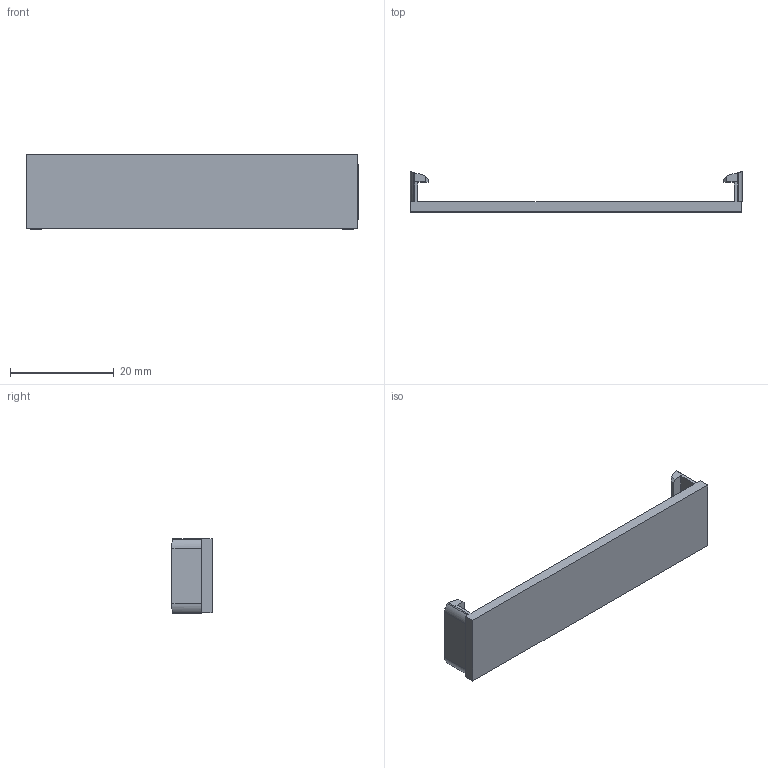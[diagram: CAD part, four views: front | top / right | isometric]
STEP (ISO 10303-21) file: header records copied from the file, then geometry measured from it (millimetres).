
FILE_DESCRIPTION(('sldprt2step conversion of Parasolid XT B-rep'),'2;1');
FILE_NAME('DexCap_D435_Vive_Bracket_v2.SLDPRT','',(''),(''),'sldprt2step','','');
FILE_SCHEMA(('AUTOMOTIVE_DESIGN { 1 0 10303 214 1 1 1 1 }'));
Length unit declared in the file: millimetre
Products named in the file (1): DexCap_D435_Vive_Bracket_v2
Bounding box: 64.01 x 7.73 x 14.4 mm (x, y, z)
Volume: 2133 mm3; surface area: 2589.6 mm2
Topology: 1 solids, 1 shells, 46 faces, 124 edges, 80 vertices
Faces by surface type: plane 38, cylinder 8
Entity records: 1414 total; most frequent: ORIENTED_EDGE 248, CARTESIAN_POINT 246, DIRECTION 234, EDGE_CURVE 124, VECTOR 98, LINE 98, VERTEX_POINT 80, AXIS2_PLACEMENT_3D 68
